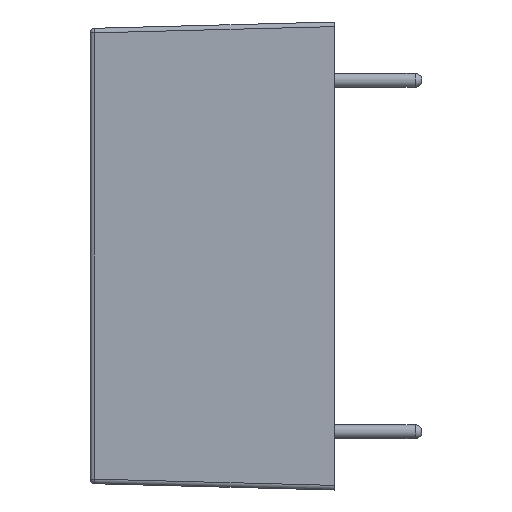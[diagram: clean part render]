
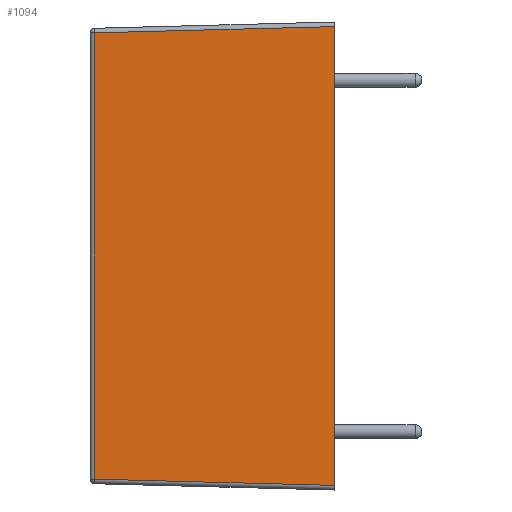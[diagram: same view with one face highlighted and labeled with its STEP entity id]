
A CAD part, left-side view. The second image highlights one B-rep face of the part: STEP entity #1094.
In plain terms, the highlighted planar face has unit normal (-1, 0.026, 0).
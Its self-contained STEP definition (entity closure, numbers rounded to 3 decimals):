
#12 = PLANE ( 'NONE',  #382 ) ;
#173 = EDGE_CURVE ( 'NONE', #1162, #406, #374, .T. ) ;
#174 = VERTEX_POINT ( 'NONE', #176 ) ;
#176 = CARTESIAN_POINT ( 'NONE',  ( -15.9, 0., -9.95 ) ) ;
#180 = CARTESIAN_POINT ( 'NONE',  ( -15.9, 0., -10.15 ) ) ;
#236 = CARTESIAN_POINT ( 'NONE',  ( -15.9, 0., -10.15 ) ) ;
#255 = LINE ( 'NONE', #1080, #527 ) ;
#300 = LINE ( 'NONE', #236, #926 ) ;
#329 = DIRECTION ( 'NONE',  ( -0.026, -1., 0. ) ) ;
#335 = DIRECTION ( 'NONE',  ( -1., 0.026, 0. ) ) ;
#374 = LINE ( 'NONE', #1529, #1968 ) ;
#382 = AXIS2_PLACEMENT_3D ( 'NONE', #180, #335, #329 ) ;
#383 = DIRECTION ( 'NONE',  ( 0., 0., 1. ) ) ;
#406 = VERTEX_POINT ( 'NONE', #1545 ) ;
#472 = ORIENTED_EDGE ( 'NONE', *, *, #1554, .T. ) ;
#527 = VECTOR ( 'NONE', #898, 1000. ) ;
#552 = LINE ( 'NONE', #1690, #1732 ) ;
#898 = DIRECTION ( 'NONE',  ( -0.026, -0.999, -0.026 ) ) ;
#926 = VECTOR ( 'NONE', #383, 1000. ) ;
#1035 = EDGE_CURVE ( 'NONE', #1541, #174, #255, .T. ) ;
#1080 = CARTESIAN_POINT ( 'NONE',  ( -15.9, -0.005, -9.95 ) ) ;
#1094 = ADVANCED_FACE ( 'NONE', ( #1267 ), #12, .T. ) ;
#1162 = VERTEX_POINT ( 'NONE', #1875 ) ;
#1203 = DIRECTION ( 'NONE',  ( 0., 0., -1. ) ) ;
#1267 = FACE_OUTER_BOUND ( 'NONE', #1745, .T. ) ;
#1529 = CARTESIAN_POINT ( 'NONE',  ( -15.886, 0.526, 9.936 ) ) ;
#1541 = VERTEX_POINT ( 'NONE', #1647 ) ;
#1545 = CARTESIAN_POINT ( 'NONE',  ( -15.628, 10.405, 9.678 ) ) ;
#1554 = EDGE_CURVE ( 'NONE', #406, #1541, #552, .T. ) ;
#1647 = CARTESIAN_POINT ( 'NONE',  ( -15.628, 10.405, -9.678 ) ) ;
#1689 = DIRECTION ( 'NONE',  ( 0.026, 0.999, -0.026 ) ) ;
#1690 = CARTESIAN_POINT ( 'NONE',  ( -15.628, 10.405, -9.872 ) ) ;
#1732 = VECTOR ( 'NONE', #1203, 1000. ) ;
#1740 = ORIENTED_EDGE ( 'NONE', *, *, #1826, .T. ) ;
#1745 = EDGE_LOOP ( 'NONE', ( #472, #1752, #1740, #1782 ) ) ;
#1752 = ORIENTED_EDGE ( 'NONE', *, *, #1035, .T. ) ;
#1782 = ORIENTED_EDGE ( 'NONE', *, *, #173, .T. ) ;
#1826 = EDGE_CURVE ( 'NONE', #174, #1162, #300, .T. ) ;
#1875 = CARTESIAN_POINT ( 'NONE',  ( -15.9, 0., 9.95 ) ) ;
#1968 = VECTOR ( 'NONE', #1689, 1000. ) ;
